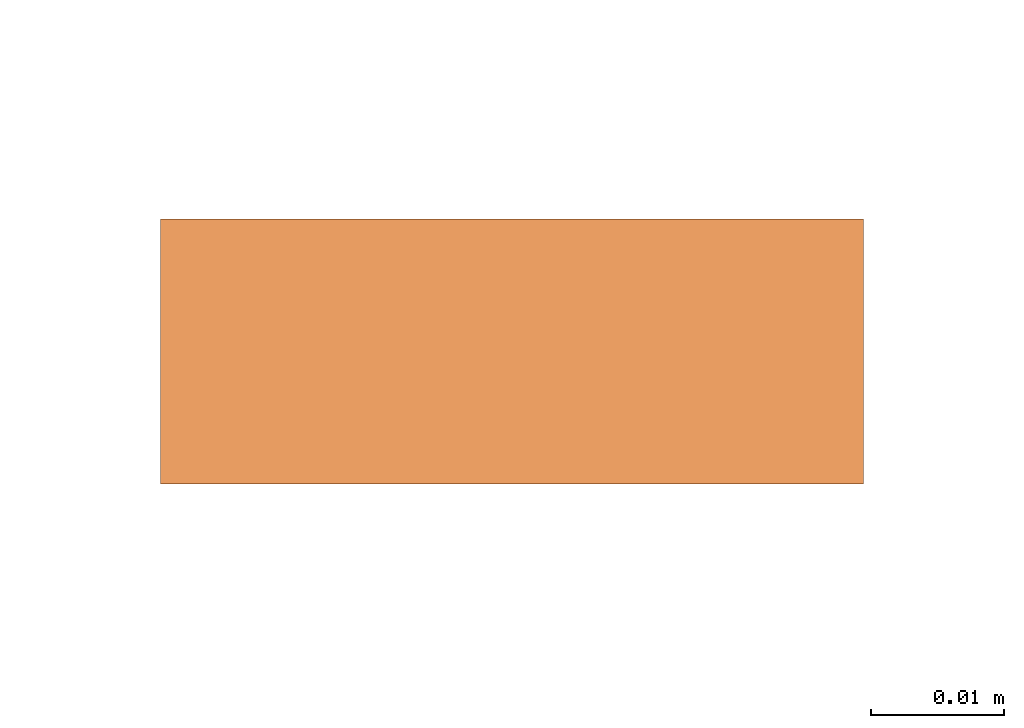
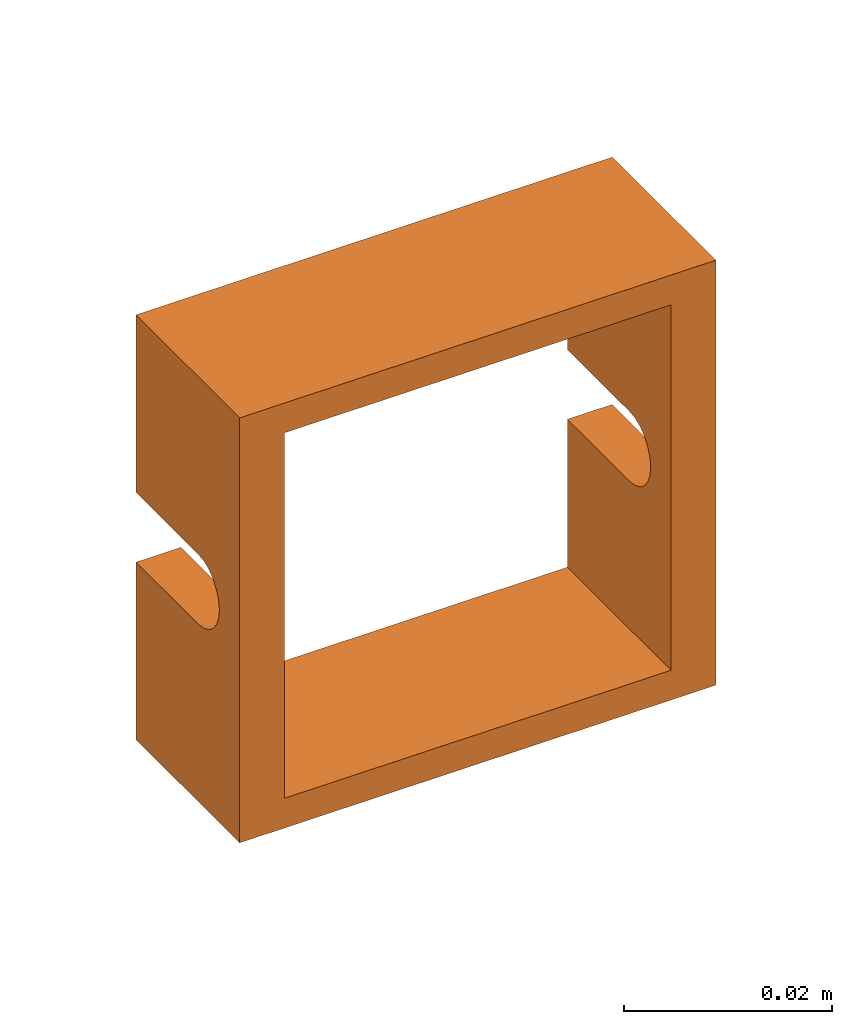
# One storey, part 87 of 87: 1 proxy.
"""IFC2X3 building model written with IfcOpenShell, lengths in millimetres."""

from ifc_helpers import new_model, entity, si_unit, converted_unit, derived_unit, direction, frame, origin, place, context, subcontext, project, spatial, faceted_brep, source, transform, mapped, material, type_object, type_shapes, element, save


model = new_model("IFC2X3")

# Units and contexts
model_context = context("Model", 3, precision=0.01, world=origin(), true_north=direction((6.12303176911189e-17, 1.0)))
body_context = subcontext(model_context, "Body", "Model", "MODEL_VIEW")
ifc_project = project(units=[si_unit("LENGTHUNIT", "METRE", prefix="MILLI"), si_unit("AREAUNIT", "SQUARE_METRE"), si_unit("VOLUMEUNIT", "CUBIC_METRE"), converted_unit("PLANEANGLEUNIT", "DEGREE", entity("IfcRatioMeasure", 0.0174532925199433), si_unit("PLANEANGLEUNIT", "RADIAN"), dimensions=[0, 0, 0, 0, 0, 0, 0]), si_unit("MASSUNIT", "GRAM", prefix="KILO"), derived_unit("MASSDENSITYUNIT", [(si_unit("MASSUNIT", "GRAM", prefix="KILO"), 1), (si_unit("LENGTHUNIT", "METRE"), -3)]), si_unit("TIMEUNIT", "SECOND"), si_unit("FREQUENCYUNIT", "HERTZ"), si_unit("THERMODYNAMICTEMPERATUREUNIT", "DEGREE_CELSIUS"), derived_unit("THERMALTRANSMITTANCEUNIT", [(si_unit("MASSUNIT", "GRAM", prefix="KILO"), 1), (si_unit("THERMODYNAMICTEMPERATUREUNIT", "KELVIN"), -1), (si_unit("TIMEUNIT", "SECOND"), -3)]), derived_unit("VOLUMETRICFLOWRATEUNIT", [(si_unit("LENGTHUNIT", "METRE"), 3), (si_unit("TIMEUNIT", "SECOND"), -1)]), si_unit("ELECTRICCURRENTUNIT", "AMPERE"), si_unit("ELECTRICVOLTAGEUNIT", "VOLT"), si_unit("POWERUNIT", "WATT"), si_unit("FORCEUNIT", "NEWTON", prefix="KILO"), si_unit("ILLUMINANCEUNIT", "LUX"), si_unit("LUMINOUSFLUXUNIT", "LUMEN"), si_unit("LUMINOUSINTENSITYUNIT", "CANDELA"), derived_unit("USERDEFINED", [(si_unit("MASSUNIT", "GRAM", prefix="KILO"), -1), (si_unit("LENGTHUNIT", "METRE"), -2), (si_unit("TIMEUNIT", "SECOND"), 3), (si_unit("LUMINOUSFLUXUNIT", "LUMEN"), 1)]), derived_unit("LINEARVELOCITYUNIT", [(si_unit("LENGTHUNIT", "METRE"), 1), (si_unit("TIMEUNIT", "SECOND"), -1)]), si_unit("PRESSUREUNIT", "PASCAL"), derived_unit("USERDEFINED", [(si_unit("LENGTHUNIT", "METRE"), -2), (si_unit("MASSUNIT", "GRAM", prefix="KILO"), 1), (si_unit("TIMEUNIT", "SECOND"), -2)])], contexts=[model_context])

# Site, building, storey
site_placement = place(None, origin())
site = spatial("IfcSite", under=ifc_project, at=site_placement, Name="Default", CompositionType="ELEMENT")
building_placement = place(site_placement, origin())
building = spatial("IfcBuilding", under=site, at=building_placement, Name="Наименование здания", CompositionType="ELEMENT")
storey_placement = place(building_placement, origin())
storey = spatial("IfcBuildingStorey", under=building, at=storey_placement, Name="Этаж 01", CompositionType="ELEMENT", Elevation=0.0)

# Proxy
ifc_material = material(Name="DKC_Пластик_Белый")
building_element_proxy_type = type_object("IfcBuildingElementProxyType", Name="Brava", PredefinedType="NOTDEFINED", material=ifc_material)
shared_shape = source(origin(), body_context, "Body", "Brep", [
    faceted_brep([(-21.5, -11.9782074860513, -4.10000215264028), (-21.5, 0.0, -4.10000215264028), (-26.5, 0.0, -4.10000215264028), (-26.5, -11.9782074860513, -4.10000215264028), (26.5, -11.9782074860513, -4.10000215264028), (26.5, 0.0, -4.10000215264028), (21.5, 0.0, -4.10000215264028), (21.5, -11.9782074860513, -4.10000215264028), (-26.5, -13.039366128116, -3.96029796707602), (-21.5, -13.039366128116, -3.96029796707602), (26.5, -13.039366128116, -3.96029796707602), (21.5, -13.039366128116, -3.96029796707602), (-26.5, -14.0282085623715, -3.55070601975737), (-21.5, -14.0282085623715, -3.55070601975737), (21.5, -14.0282085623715, -3.55070601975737), (26.5, -14.0282085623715, -3.55070601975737), (-21.5, -15.5289135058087, -2.05000107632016), (-21.5, -14.8773468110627, -2.8991393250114), (-26.5, -14.8773468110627, -2.89913932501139), (-26.5, -15.5289135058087, -2.05000107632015), (26.5, -15.5289135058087, -2.05000107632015), (26.5, -14.8773468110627, -2.89913932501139), (21.5, -14.8773468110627, -2.8991393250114), (21.5, -15.5289135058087, -2.05000107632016), (-21.5, -15.9385054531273, -1.06115864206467), (-26.5, -15.9385054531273, -1.06115864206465), (26.5, -15.9385054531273, -1.06115864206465), (21.5, -15.9385054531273, -1.06115864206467), (-26.5, -16.0782096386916, 0.0), (-21.5, -16.0782096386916, 0.0), (21.5, -16.0782096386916, 0.0), (26.5, -16.0782096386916, 0.0), (-21.5, -15.9385054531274, 1.06115864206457), (-26.5, -15.9385054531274, 1.06115864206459), (-26.5, -15.5289135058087, 2.0500010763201), (-21.5, -15.5289135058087, 2.05000107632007), (26.5, -15.5289135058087, 2.05000107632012), (26.5, -15.9385054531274, 1.06115864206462), (21.5, -15.9385054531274, 1.06115864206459), (21.5, -15.5289135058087, 2.05000107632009), (-26.5, -14.8773468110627, 2.89913932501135), (-21.5, -14.8773468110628, 2.89913932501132), (21.5, -14.8773468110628, 2.89913932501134), (26.5, -14.8773468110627, 2.89913932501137), (-21.5, -13.0393661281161, 3.96029796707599), (-21.5, -14.0282085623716, 3.55070601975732), (-26.5, -14.0282085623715, 3.55070601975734), (-26.5, -13.039366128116, 3.96029796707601), (26.5, -13.039366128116, 3.96029796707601), (26.5, -14.0282085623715, 3.55070601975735), (21.5, -14.0282085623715, 3.55070601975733), (21.5, -13.039366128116, 3.960297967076), (-21.5, -11.9782074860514, 4.10000215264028), (-26.5, -11.9782074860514, 4.10000215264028), (26.5, -11.9782074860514, 4.10000215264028), (21.5, -11.9782074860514, 4.10000215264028), (-21.5, 0.0, 4.10000215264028), (-26.5, 0.0, 4.10000215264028), (26.5, 0.0, 4.10000215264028), (21.5, 0.0, 4.10000215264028), (21.5, 0.0, -21.4999999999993), (21.5, -20.0, -21.4999999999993), (21.5, -20.0, 21.499999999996), (21.5, 0.0, 21.499999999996), (-21.5, 0.0, 21.499999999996), (-21.5, -20.0, 21.499999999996), (-21.5, -20.0, -21.4999999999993), (-21.5, 0.0, -21.4999999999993), (26.5, 0.0, 25.0), (26.5, -20.0, 25.0), (26.5, -20.0, -25.0), (26.5, 0.0, -25.0), (-26.5, -20.0, 25.0), (-26.5, 0.0, 25.0), (-26.5, 0.0, -25.0), (-26.5, -20.0, -25.0)], [[[0, 1, 2, 3]], [[4, 5, 6, 7]], [[0, 3, 8, 9]], [[10, 4, 7, 11]], [[9, 8, 12, 13]], [[10, 11, 14, 15]], [[16, 17, 18, 19]], [[20, 21, 22, 23]], [[12, 18, 17, 13]], [[14, 22, 21, 15]], [[24, 16, 19, 25]], [[26, 20, 23, 27]], [[28, 29, 24, 25]], [[27, 30, 31, 26]], [[32, 33, 34, 35]], [[36, 37, 38, 39]], [[35, 34, 40, 41]], [[36, 39, 42, 43]], [[44, 45, 46, 47]], [[48, 49, 50, 51]], [[40, 46, 45, 41]], [[42, 50, 49, 43]], [[52, 44, 47, 53]], [[54, 48, 51, 55]], [[32, 29, 28, 33]], [[37, 31, 30, 38]], [[56, 52, 53, 57]], [[58, 54, 55, 59]], [[50, 42, 39, 38, 30, 27, 23, 22, 14, 11, 7, 6, 60, 61, 62, 63, 59, 55, 51]], [[13, 17, 16, 24, 29, 32, 35, 41, 45, 44, 52, 56, 64, 65, 66, 67, 1, 0, 9]], [[64, 63, 62, 65]], [[66, 61, 60, 67]], [[58, 68, 69, 70, 71, 5, 4, 10, 15, 21, 20, 26, 31, 37, 36, 43, 49, 48, 54]], [[72, 73, 57, 53, 47, 46, 40, 34, 33, 28, 25, 19, 18, 12, 8, 3, 2, 74, 75]], [[69, 68, 73, 72]], [[69, 62, 61]], [[62, 69, 65]], [[61, 70, 69]], [[72, 65, 69]], [[65, 72, 66]], [[75, 66, 72]], [[66, 75, 70]], [[70, 61, 66]], [[71, 70, 75, 74]], [[71, 74, 2, 1, 67, 60, 6, 5]], [[58, 59, 63, 64, 56, 57, 73, 68]]]),
])
type_shapes(building_element_proxy_type, [shared_shape])
proxy_placement = place(storey_placement, frame((79110.5043710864, -5568.3806616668, 0.0)))
element("IfcBuildingElementProxy", 1, at=proxy_placement, inside=storey, type_object=building_element_proxy_type, material=ifc_material, Name="КНС_КаркасНа2МодуляДляМонтажаЭлектроустановочныхИзделий_ILF_DKC:Brava", ObjectType="Brava", context=body_context, shape_type="MappedRepresentation", body=[
    mapped(shared_shape, transform((0.0, 0.0, 0.0), scale=1.0)),
])

save(model, "model.ifc")
